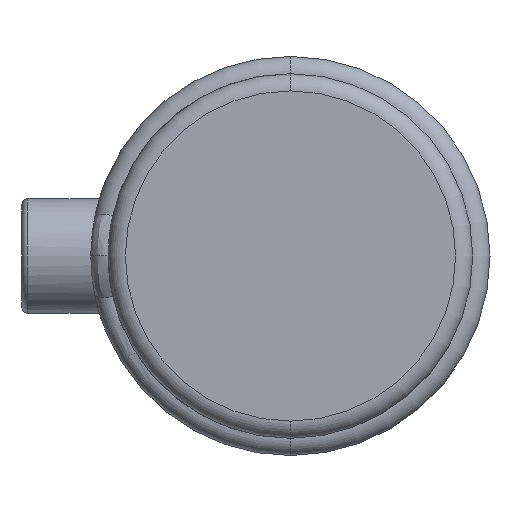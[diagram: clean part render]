
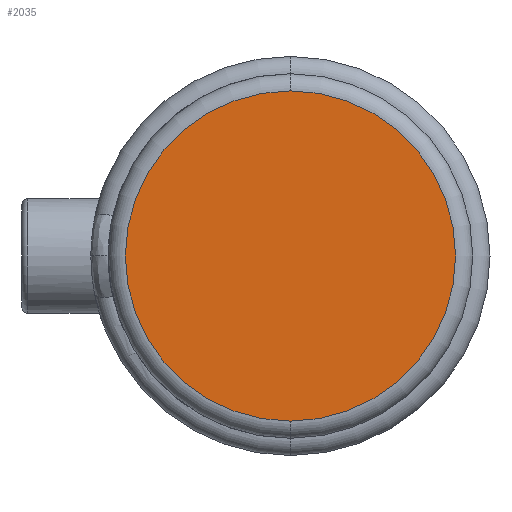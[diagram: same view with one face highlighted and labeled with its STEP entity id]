
A CAD part, left-side view. The second image highlights one B-rep face of the part: STEP entity #2035.
In plain terms, the highlighted planar face has unit normal (-1, 0, 0).
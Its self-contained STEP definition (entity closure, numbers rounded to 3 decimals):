
#79 = VERTEX_POINT ( 'NONE', #218 ) ;
#218 = CARTESIAN_POINT ( 'NONE',  ( 0., 0., 28.75 ) ) ;
#334 = AXIS2_PLACEMENT_3D ( 'NONE', #1805, #4449, #2168 ) ;
#542 = DIRECTION ( 'NONE',  ( -1., 0., 0. ) ) ;
#756 = DIRECTION ( 'NONE',  ( -1., 0., 0. ) ) ;
#901 = CIRCLE ( 'NONE', #3141, 28.75 ) ;
#923 = FACE_OUTER_BOUND ( 'NONE', #3774, .T. ) ;
#1380 = EDGE_CURVE ( 'NONE', #1677, #79, #3050, .T. ) ;
#1530 = CARTESIAN_POINT ( 'NONE',  ( 0., 0., -28.75 ) ) ;
#1634 = PLANE ( 'NONE',  #4244 ) ;
#1677 = VERTEX_POINT ( 'NONE', #1530 ) ;
#1805 = CARTESIAN_POINT ( 'NONE',  ( 0., 0., 0. ) ) ;
#2035 = ADVANCED_FACE ( 'NONE', ( #923 ), #1634, .T. ) ;
#2168 = DIRECTION ( 'NONE',  ( 0., 0., 1. ) ) ;
#2952 = CARTESIAN_POINT ( 'NONE',  ( 0., 0., 0. ) ) ;
#3050 = CIRCLE ( 'NONE', #334, 28.75 ) ;
#3116 = DIRECTION ( 'NONE',  ( 0., 0., 1. ) ) ;
#3141 = AXIS2_PLACEMENT_3D ( 'NONE', #2952, #756, #3326 ) ;
#3326 = DIRECTION ( 'NONE',  ( 0., 0., 1. ) ) ;
#3774 = EDGE_LOOP ( 'NONE', ( #4659, #4275 ) ) ;
#4244 = AXIS2_PLACEMENT_3D ( 'NONE', #4672, #542, #3116 ) ;
#4275 = ORIENTED_EDGE ( 'NONE', *, *, #1380, .T. ) ;
#4449 = DIRECTION ( 'NONE',  ( -1., 0., 0. ) ) ;
#4659 = ORIENTED_EDGE ( 'NONE', *, *, #4665, .T. ) ;
#4665 = EDGE_CURVE ( 'NONE', #79, #1677, #901, .T. ) ;
#4672 = CARTESIAN_POINT ( 'NONE',  ( 0., 0., 0. ) ) ;
